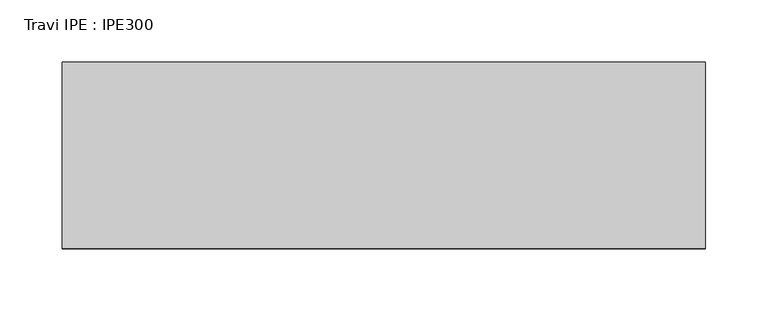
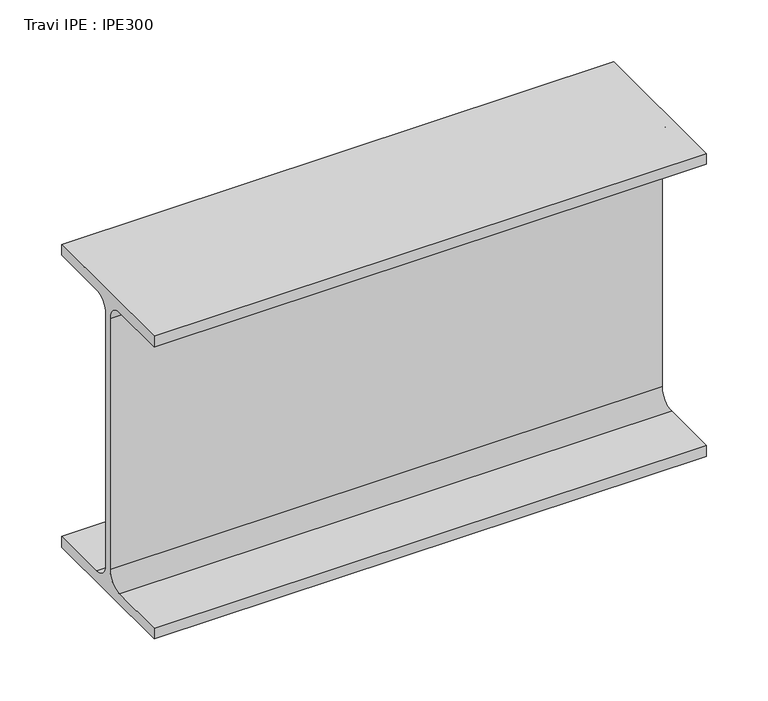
"""IFC4 building model written with IfcOpenShell, lengths in millimetres: beam geometry, Travi IPE : IPE300."""

from ifc_helpers import new_model, si_unit, point, frame, frame_2d, origin, place, context, project, spatial, polyline, circle_curve, trimmed, segment, composite_curve, outline, extrude, source, transform, mapped, element, save


def travi_ipe_ipe300_51013c44(model_context):
    return source(origin(), model_context, "Body", "SweptSolid", [
        extrude(outline(composite_curve([segment(polyline([(75.0, -139.3), (75.0, -150.0), (-75.0, -150.0), (-75.0, -139.3), (-18.55, -139.3)]), True, "CONTINUOUS"), segment(trimmed(circle_curve(frame_2d((-18.55, -124.3)), 15.0), [point((-18.55, -139.3))], [point((-3.55, -124.3))], True, "CARTESIAN"), True, "CONTINUOUS"), segment(polyline([(-3.55, -124.3), (-3.55, 124.3)]), True, "CONTINUOUS"), segment(trimmed(circle_curve(frame_2d((-18.55, 124.3)), 15.0), [point((-3.55, 124.3))], [point((-18.55, 139.3))], True, "CARTESIAN"), True, "CONTINUOUS"), segment(polyline([(-18.55, 139.3), (-75.0, 139.3), (-75.0, 150.0), (75.0, 150.0), (75.0, 139.3), (18.55, 139.3)]), True, "CONTINUOUS"), segment(trimmed(circle_curve(frame_2d((18.55, 124.3)), 15.0), [point((18.55, 139.3))], [point((3.55, 124.3))], True, "CARTESIAN"), True, "CONTINUOUS"), segment(polyline([(3.55, 124.3), (3.55, -124.3)]), True, "CONTINUOUS"), segment(trimmed(circle_curve(frame_2d((18.55, -124.3)), 15.0), [point((3.55, -124.3))], [point((18.55, -139.3))], True, "CARTESIAN"), True, "CONTINUOUS"), segment(polyline([(18.55, -139.3), (75.0, -139.3)]), True, "CONTINUOUS")], self_intersect=False)), frame((-265.5, 0.0, 0.0), z_axis=(1.0, 0.0, 0.0), x_axis=(0.0, 1.0, 0.0)), (0.0, 0.0, 1.0), 517.0),
    ])


if __name__ == "__main__":
    model = new_model("IFC4")
    model_context = context("Model", 3, world=origin())
    ifc_project = project(units=[si_unit("LENGTHUNIT", "METRE", prefix="MILLI")], contexts=[model_context])
    site = spatial("IfcSite", under=ifc_project)
    building = spatial("IfcBuilding", under=site)
    placement = place(None, origin())
    travi_ipe_ipe300_shape = travi_ipe_ipe300_51013c44(model_context)
    element("IfcBeam", 1, ObjectType="Travi IPE : IPE300", at=placement, inside=building, context=model_context, shape_type="MappedRepresentation", body=[
        mapped(travi_ipe_ipe300_shape, transform((0.0, 0.0, 0.0), x_axis=(1.0, 0.0, 0.0), y_axis=(0.0, 1.0, 0.0), z_axis=(0.0, 0.0, 1.0))),
    ])
    save(model, "model.ifc")
